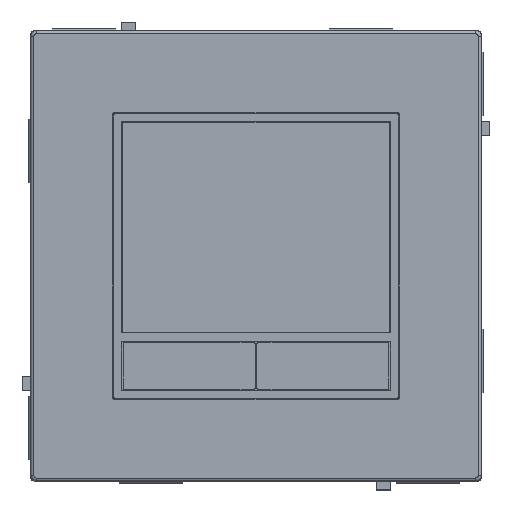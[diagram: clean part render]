
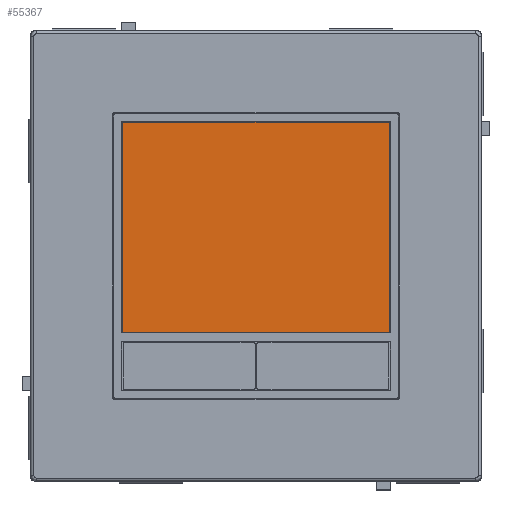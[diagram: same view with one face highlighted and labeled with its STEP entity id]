
A CAD part, top view. The second image highlights one B-rep face of the part: STEP entity #55367.
In plain terms, the highlighted planar face has unit normal (0, 0, 1).
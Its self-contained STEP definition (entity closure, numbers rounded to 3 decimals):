
#2690 = ORIENTED_EDGE ( 'NONE', *, *, #46645, .F. ) ;
#3813 = CARTESIAN_POINT ( 'NONE',  ( 21., -11.777, 6.2 ) ) ;
#4300 = ORIENTED_EDGE ( 'NONE', *, *, #24437, .T. ) ;
#5575 = CARTESIAN_POINT ( 'NONE',  ( 0., 0., 6.2 ) ) ;
#6141 = ORIENTED_EDGE ( 'NONE', *, *, #7470, .F. ) ;
#6179 = AXIS2_PLACEMENT_3D ( 'NONE', #63723, #81381, #18316 ) ;
#7470 = EDGE_CURVE ( 'NONE', #51872, #69358, #19711, .T. ) ;
#7575 = ORIENTED_EDGE ( 'NONE', *, *, #58683, .T. ) ;
#7879 = EDGE_CURVE ( 'NONE', #35126, #60476, #74194, .T. ) ;
#8015 = EDGE_CURVE ( 'NONE', #35126, #33787, #62770, .T. ) ;
#8444 = VERTEX_POINT ( 'NONE', #46261 ) ;
#8948 = EDGE_CURVE ( 'NONE', #51872, #8444, #81740, .T. ) ;
#9675 = LINE ( 'NONE', #80264, #44286 ) ;
#10735 = CARTESIAN_POINT ( 'NONE',  ( -20.8, 20.823, 6.2 ) ) ;
#11543 = CARTESIAN_POINT ( 'NONE',  ( 20.8, 20.823, 6.2 ) ) ;
#12395 = CARTESIAN_POINT ( 'NONE',  ( 10.5, -11.977, 6.2 ) ) ;
#13080 = PLANE ( 'NONE',  #50112 ) ;
#15711 = AXIS2_PLACEMENT_3D ( 'NONE', #74696, #29288, #16690 ) ;
#16593 = CARTESIAN_POINT ( 'NONE',  ( -10.5, 21.023, 6.2 ) ) ;
#16690 = DIRECTION ( 'NONE',  ( -0.707, -0.707, 0. ) ) ;
#17122 = EDGE_LOOP ( 'NONE', ( #59169, #45692, #2690, #4300, #6141, #27576, #39335, #7575 ) ) ;
#18316 = DIRECTION ( 'NONE',  ( 0.707, -0.707, 0. ) ) ;
#19711 = CIRCLE ( 'NONE', #15711, 0.2 ) ;
#23715 = DIRECTION ( 'NONE',  ( 0., 0., -1. ) ) ;
#24437 = EDGE_CURVE ( 'NONE', #71966, #69358, #9675, .T. ) ;
#27576 = ORIENTED_EDGE ( 'NONE', *, *, #8948, .T. ) ;
#29204 = DIRECTION ( 'NONE',  ( 0., 0., -1. ) ) ;
#29288 = DIRECTION ( 'NONE',  ( 0., 0., -1. ) ) ;
#33787 = VERTEX_POINT ( 'NONE', #70511 ) ;
#35126 = VERTEX_POINT ( 'NONE', #57000 ) ;
#35270 = DIRECTION ( 'NONE',  ( 0., -1., 0. ) ) ;
#36334 = DIRECTION ( 'NONE',  ( -0.707, 0.707, 0. ) ) ;
#36968 = CIRCLE ( 'NONE', #6179, 0.2 ) ;
#37047 = DIRECTION ( 'NONE',  ( 0., -1., 0. ) ) ;
#39003 = VERTEX_POINT ( 'NONE', #3813 ) ;
#39335 = ORIENTED_EDGE ( 'NONE', *, *, #60706, .F. ) ;
#42233 = DIRECTION ( 'NONE',  ( -1., 0., 0. ) ) ;
#44286 = VECTOR ( 'NONE', #35270, 1000. ) ;
#45692 = ORIENTED_EDGE ( 'NONE', *, *, #7879, .T. ) ;
#46261 = CARTESIAN_POINT ( 'NONE',  ( 20.8, -11.977, 6.2 ) ) ;
#46645 = EDGE_CURVE ( 'NONE', #71966, #60476, #68560, .T. ) ;
#49758 = DIRECTION ( 'NONE',  ( 0., 1., 0. ) ) ;
#50112 = AXIS2_PLACEMENT_3D ( 'NONE', #5575, #82887, #37047 ) ;
#51872 = VERTEX_POINT ( 'NONE', #81951 ) ;
#52869 = VECTOR ( 'NONE', #49758, 1000. ) ;
#55056 = CARTESIAN_POINT ( 'NONE',  ( -21., 20.823, 6.2 ) ) ;
#55153 = AXIS2_PLACEMENT_3D ( 'NONE', #10735, #29204, #36334 ) ;
#55367 = ADVANCED_FACE ( 'NONE', ( #70657 ), #13080, .T. ) ;
#57000 = CARTESIAN_POINT ( 'NONE',  ( 20.8, 21.023, 6.2 ) ) ;
#57325 = DIRECTION ( 'NONE',  ( 0.707, 0.707, 0. ) ) ;
#57340 = DIRECTION ( 'NONE',  ( 1., 0., 0. ) ) ;
#58683 = EDGE_CURVE ( 'NONE', #39003, #33787, #61548, .T. ) ;
#58729 = VECTOR ( 'NONE', #42233, 1000. ) ;
#59169 = ORIENTED_EDGE ( 'NONE', *, *, #8015, .F. ) ;
#59661 = CARTESIAN_POINT ( 'NONE',  ( -21., -11.777, 6.2 ) ) ;
#60476 = VERTEX_POINT ( 'NONE', #63465 ) ;
#60706 = EDGE_CURVE ( 'NONE', #39003, #8444, #36968, .T. ) ;
#61548 = LINE ( 'NONE', #75411, #52869 ) ;
#62770 = CIRCLE ( 'NONE', #66779, 0.2 ) ;
#63465 = CARTESIAN_POINT ( 'NONE',  ( -20.8, 21.023, 6.2 ) ) ;
#63723 = CARTESIAN_POINT ( 'NONE',  ( 20.8, -11.777, 6.2 ) ) ;
#66779 = AXIS2_PLACEMENT_3D ( 'NONE', #11543, #23715, #57325 ) ;
#68560 = CIRCLE ( 'NONE', #55153, 0.2 ) ;
#69358 = VERTEX_POINT ( 'NONE', #59661 ) ;
#70511 = CARTESIAN_POINT ( 'NONE',  ( 21., 20.823, 6.2 ) ) ;
#70657 = FACE_OUTER_BOUND ( 'NONE', #17122, .T. ) ;
#71966 = VERTEX_POINT ( 'NONE', #55056 ) ;
#74194 = LINE ( 'NONE', #16593, #58729 ) ;
#74696 = CARTESIAN_POINT ( 'NONE',  ( -20.8, -11.777, 6.2 ) ) ;
#75411 = CARTESIAN_POINT ( 'NONE',  ( 21., -11.979, 6.2 ) ) ;
#77633 = VECTOR ( 'NONE', #57340, 1000. ) ;
#80264 = CARTESIAN_POINT ( 'NONE',  ( -21., 21.025, 6.2 ) ) ;
#81381 = DIRECTION ( 'NONE',  ( 0., 0., -1. ) ) ;
#81740 = LINE ( 'NONE', #12395, #77633 ) ;
#81951 = CARTESIAN_POINT ( 'NONE',  ( -20.8, -11.977, 6.2 ) ) ;
#82887 = DIRECTION ( 'NONE',  ( 0., 0., 1. ) ) ;
